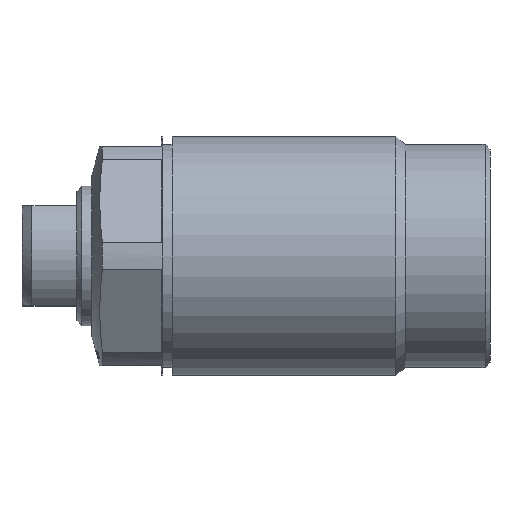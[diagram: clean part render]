
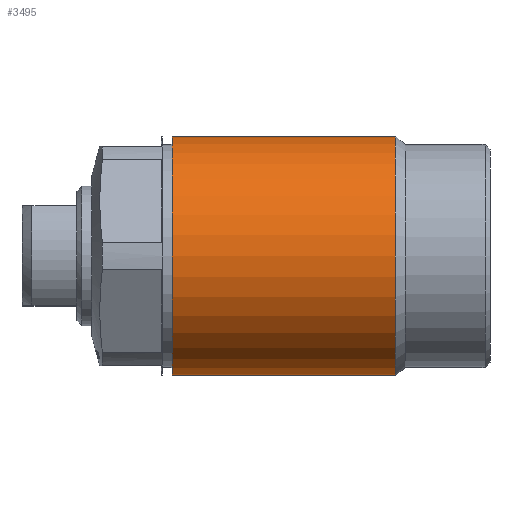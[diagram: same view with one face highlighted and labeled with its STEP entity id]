
A CAD part, left-side view. The second image highlights one B-rep face of the part: STEP entity #3495.
In plain terms, the highlighted cylindrical face has radius 12 mm (diameter 24 mm), a partial arc.
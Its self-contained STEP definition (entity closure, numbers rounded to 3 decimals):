
#109 = CYLINDRICAL_SURFACE ( 'NONE', #8590, 12. ) ;
#273 = EDGE_CURVE ( 'NONE', #10938, #4956, #10926, .T. ) ;
#321 = DIRECTION ( 'NONE',  ( 0., -1., 0. ) ) ;
#585 = DIRECTION ( 'NONE',  ( 0., -1., 0. ) ) ;
#1165 = AXIS2_PLACEMENT_3D ( 'NONE', #6000, #585, #6923 ) ;
#1195 = CARTESIAN_POINT ( 'NONE',  ( 0., -54.764, 0. ) ) ;
#1717 = CARTESIAN_POINT ( 'NONE',  ( 0., 4.601, 12. ) ) ;
#1905 = CARTESIAN_POINT ( 'NONE',  ( 0., 4.601, -12. ) ) ;
#2178 = VERTEX_POINT ( 'NONE', #8398 ) ;
#2661 = ORIENTED_EDGE ( 'NONE', *, *, #8335, .F. ) ;
#2905 = CARTESIAN_POINT ( 'NONE',  ( 0., -54.764, 12. ) ) ;
#2985 = LINE ( 'NONE', #6631, #9429 ) ;
#3060 = EDGE_LOOP ( 'NONE', ( #2661, #6599, #8637, #9110 ) ) ;
#3495 = ADVANCED_FACE ( 'NONE', ( #4861 ), #109, .T. ) ;
#3508 = CARTESIAN_POINT ( 'NONE',  ( 0., 4.601, 0. ) ) ;
#3542 = EDGE_CURVE ( 'NONE', #10422, #4956, #2985, .T. ) ;
#3575 = DIRECTION ( 'NONE',  ( 0., -1., 0. ) ) ;
#3587 = DIRECTION ( 'NONE',  ( 0., 0., -1. ) ) ;
#3808 = DIRECTION ( 'NONE',  ( 0., -1., 0. ) ) ;
#4183 = LINE ( 'NONE', #2905, #9065 ) ;
#4810 = DIRECTION ( 'NONE',  ( 0., -1., 0. ) ) ;
#4861 = FACE_OUTER_BOUND ( 'NONE', #3060, .T. ) ;
#4956 = VERTEX_POINT ( 'NONE', #1905 ) ;
#5467 = EDGE_CURVE ( 'NONE', #2178, #10422, #8101, .T. ) ;
#6000 = CARTESIAN_POINT ( 'NONE',  ( 0., 27.029, 0. ) ) ;
#6599 = ORIENTED_EDGE ( 'NONE', *, *, #5467, .T. ) ;
#6631 = CARTESIAN_POINT ( 'NONE',  ( 0., -54.764, -12. ) ) ;
#6923 = DIRECTION ( 'NONE',  ( 0., 0., -1. ) ) ;
#7531 = DIRECTION ( 'NONE',  ( 0., 0., -1. ) ) ;
#8101 = CIRCLE ( 'NONE', #1165, 12. ) ;
#8335 = EDGE_CURVE ( 'NONE', #2178, #10938, #4183, .T. ) ;
#8398 = CARTESIAN_POINT ( 'NONE',  ( 0., 27.029, 12. ) ) ;
#8590 = AXIS2_PLACEMENT_3D ( 'NONE', #1195, #321, #7531 ) ;
#8637 = ORIENTED_EDGE ( 'NONE', *, *, #3542, .T. ) ;
#8896 = CARTESIAN_POINT ( 'NONE',  ( 0., 27.029, -12. ) ) ;
#8942 = AXIS2_PLACEMENT_3D ( 'NONE', #3508, #3575, #3587 ) ;
#9065 = VECTOR ( 'NONE', #3808, 1000. ) ;
#9110 = ORIENTED_EDGE ( 'NONE', *, *, #273, .F. ) ;
#9429 = VECTOR ( 'NONE', #4810, 1000. ) ;
#10422 = VERTEX_POINT ( 'NONE', #8896 ) ;
#10926 = CIRCLE ( 'NONE', #8942, 12. ) ;
#10938 = VERTEX_POINT ( 'NONE', #1717 ) ;
